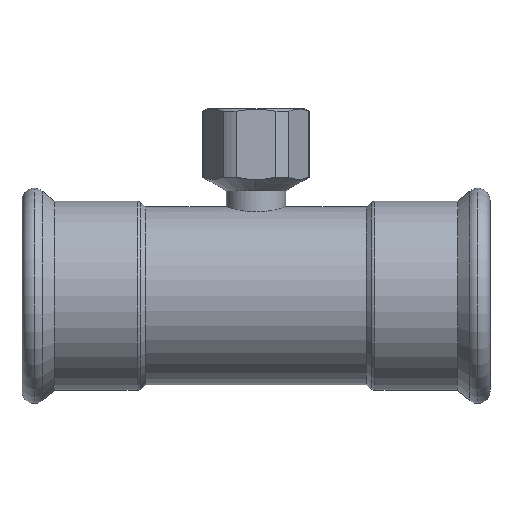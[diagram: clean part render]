
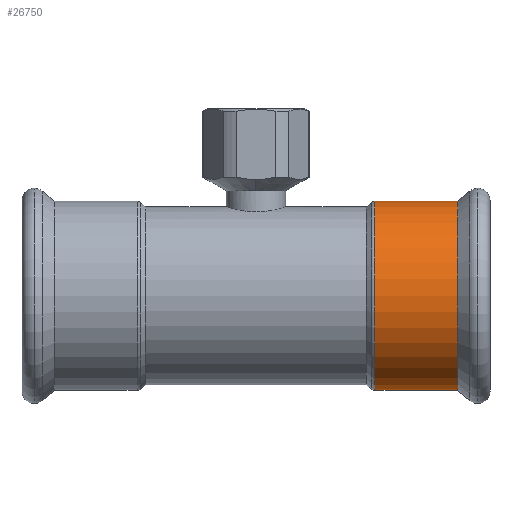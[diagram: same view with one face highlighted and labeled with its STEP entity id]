
A CAD part, top view. The second image highlights one B-rep face of the part: STEP entity #26750.
In plain terms, the highlighted cylindrical face has radius 28.7 mm (diameter 57.4 mm), a partial arc.
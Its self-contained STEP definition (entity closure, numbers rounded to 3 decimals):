
#19970=CARTESIAN_POINT('',(1.644,98.949,0.));
#19980=VERTEX_POINT('',#19970);
#20160=CARTESIAN_POINT('',(59.044,98.949,
0.));
#20170=VERTEX_POINT('',#20160);
#20200=CARTESIAN_POINT('',(30.344,98.949,0.));
#20210=DIRECTION('',(0.,-1.,0.));
#20220=DIRECTION('',(1.,0.,0.));
#20230=AXIS2_PLACEMENT_3D('',#20200,#20210,#20220);
#20240=CIRCLE('',#20230,28.7);
#20620=CARTESIAN_POINT('',(30.344,111.845,0.));
#20630=DIRECTION('',(0.,1.,0.));
#20640=DIRECTION('',(1.,0.,0.));
#20650=AXIS2_PLACEMENT_3D('',#20620,#20630,#20640);
#20660=CYLINDRICAL_SURFACE('',#20650,28.7);
#20670=CARTESIAN_POINT('',(1.644,111.845,
0.));
#20680=DIRECTION('',(0.,1.,0.));
#20690=VECTOR('',#20680,1.);
#20700=LINE('',#20670,#20690);
#20710=CARTESIAN_POINT('',(1.644,124.123,0.));
#20720=VERTEX_POINT('',#20710);
#20730=EDGE_CURVE('',#19980,#20720,#20700,.T.);
#20760=CARTESIAN_POINT('',(59.044,111.845,0.));
#20770=DIRECTION('',(0.,1.,0.));
#20780=VECTOR('',#20770,1.);
#20790=LINE('',#20760,#20780);
#20800=CARTESIAN_POINT('',(59.044,124.123,0.));
#20810=VERTEX_POINT('',#20800);
#20820=EDGE_CURVE('',#20170,#20810,#20790,.T.);
#20840=CARTESIAN_POINT('',(30.344,124.123,0.));
#20850=DIRECTION('',(0.,-1.,0.));
#20860=DIRECTION('',(-1.,0.,0.));
#20870=AXIS2_PLACEMENT_3D('',#20840,#20850,#20860);
#20880=CIRCLE('',#20870,28.7);
#26670=EDGE_CURVE('',#20170,#19980,#20240,.T.);
#26680=ORIENTED_EDGE('',*,*,#26670,.F.);
#26690=ORIENTED_EDGE('',*,*,#20730,.F.);
#26700=EDGE_CURVE('',#20810,#20720,#20880,.T.);
#26710=ORIENTED_EDGE('',*,*,#26700,.T.);
#26720=ORIENTED_EDGE('',*,*,#20820,.T.);
#26730=EDGE_LOOP('',(#26720,#26710,#26690,#26680));
#26740=FACE_OUTER_BOUND('',#26730,.T.);
#26750=ADVANCED_FACE('',(#26740),#20660,.T.);
